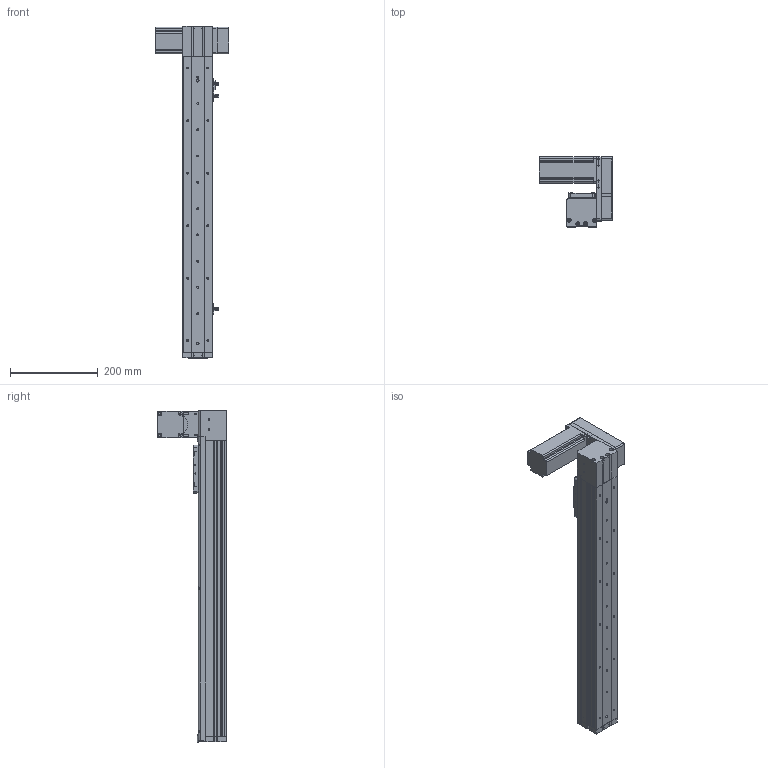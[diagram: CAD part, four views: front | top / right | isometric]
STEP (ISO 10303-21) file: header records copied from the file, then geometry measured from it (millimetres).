
FILE_DESCRIPTION (( 'STEP AP214' ), '1' );
FILE_NAME ('KSD68BS-S500-MLU-CR.STEP', '2019-08-27T08:03:37', ( '微软用户' ), ( '微软中国' ), 'SwSTEP 2.0', 'SolidWorks 2014', '' );
FILE_SCHEMA (( 'AUTOMOTIVE_DESIGN' ));
Length unit declared in the file: millimetre
Products named in the file (14): 悵誘欶奻狟殏; 68宽马达安装板连板上折同步带; 感应片68宽全封闭; U倰嫖萇EEㄜSX672; 台达ECMA－C20604AS伺服电机（400W); KSD68BS 500行程底板全封闭; KSD68BS-S500-MLU-CR; 68遵裔啣揤啣1; KSD68BS 500行程盖板全封闭; 68宽单导轨全封闭丝杆传动安装板1防护罩; KSD68BS 500行程侧板全封闭; 68宽单导轨全封闭同步带端板; 68单导轨全封闭同步带电机座左; 68单导轨全封闭同步带安装板
Assembly tree (17 placements, depth 2):
  KSD68BS-S500-MLU-CR
    KSD68BS 500行程底板全封闭
    台达ECMA－C20604AS伺服电机（400W)
    U倰嫖萇EEㄜSX672  x3
    感应片68宽全封闭
    68宽马达安装板连板上折同步带
    悵誘欶奻狟殏
    68单导轨全封闭同步带安装板
    68单导轨全封闭同步带电机座左
    68宽单导轨全封闭同步带端板
    KSD68BS 500行程侧板全封闭  x2
    68宽单导轨全封闭丝杆传动安装板1防护罩
    68遵裔啣揤啣1  x2
    KSD68BS 500行程盖板全封闭
Bounding box: 167.2 x 159.5 x 758.1 mm (x, y, z)
Volume: 1863375 mm3; surface area: 653655.4 mm2
Topology: 18 solids, 18 shells, 1397 faces, 3935 edges, 2530 vertices
Faces by surface type: cylinder 636, plane 625, cone 136
Entity records: 43489 total; most frequent: CARTESIAN_POINT 7365, DIRECTION 6574, ORIENTED_EDGE 6306, EDGE_CURVE 3153, AXIS2_PLACEMENT_3D 2343, VERTEX_POINT 2068, VECTOR 1888, LINE 1888
